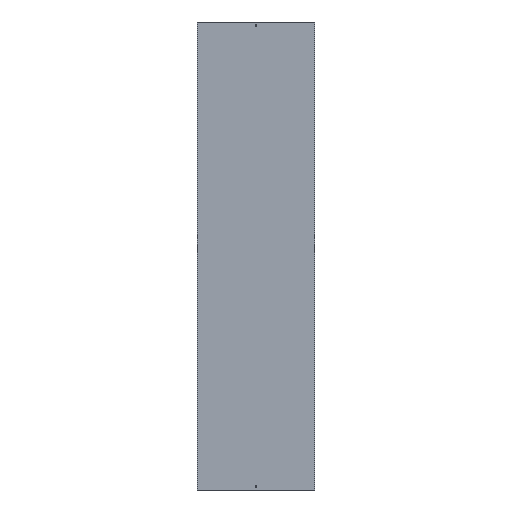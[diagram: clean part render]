
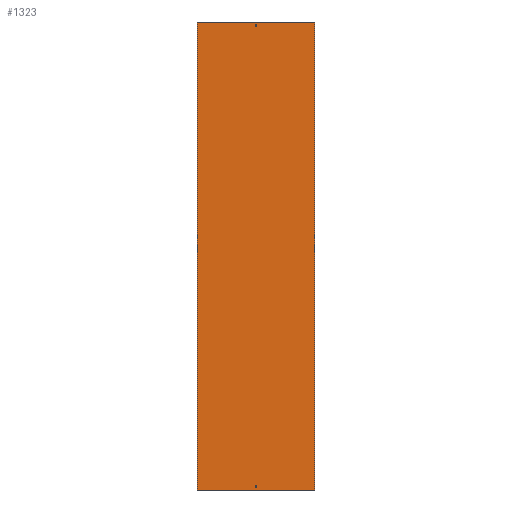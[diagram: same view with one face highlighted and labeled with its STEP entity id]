
A CAD part, front view. The second image highlights one B-rep face of the part: STEP entity #1323.
In plain terms, the highlighted planar face has unit normal (0, -1, 0).
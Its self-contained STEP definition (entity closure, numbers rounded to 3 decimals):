
#8 = DIRECTION ( 'NONE',  ( 0., 0., -1. ) ) ;
#23 = VECTOR ( 'NONE', #2486, 1000. ) ;
#26 = CARTESIAN_POINT ( 'NONE',  ( -3.25, 0., 988. ) ) ;
#33 = ORIENTED_EDGE ( 'NONE', *, *, #2681, .F. ) ;
#49 = DIRECTION ( 'NONE',  ( 0., 0., -1. ) ) ;
#121 = CARTESIAN_POINT ( 'NONE',  ( 3.25, 0., -979. ) ) ;
#133 = CARTESIAN_POINT ( 'NONE',  ( -252., 0., 1000. ) ) ;
#195 = LINE ( 'NONE', #223, #1129 ) ;
#209 = CARTESIAN_POINT ( 'NONE',  ( -252., 0., -1000. ) ) ;
#210 = DIRECTION ( 'NONE',  ( -1., 0., 0. ) ) ;
#222 = FACE_OUTER_BOUND ( 'NONE', #825, .T. ) ;
#223 = CARTESIAN_POINT ( 'NONE',  ( -252., 0., 1000. ) ) ;
#257 = ORIENTED_EDGE ( 'NONE', *, *, #2533, .T. ) ;
#263 = DIRECTION ( 'NONE',  ( -1., 0., 0. ) ) ;
#267 = CARTESIAN_POINT ( 'NONE',  ( 3.25, 0., 988. ) ) ;
#274 = CARTESIAN_POINT ( 'NONE',  ( -3.25, 0., 988. ) ) ;
#290 = EDGE_CURVE ( 'NONE', #2573, #917, #2572, .T. ) ;
#360 = CARTESIAN_POINT ( 'NONE',  ( 3.25, 0., -988. ) ) ;
#373 = VECTOR ( 'NONE', #1499, 1000. ) ;
#413 = CARTESIAN_POINT ( 'NONE',  ( -3.25, 0., -988. ) ) ;
#425 = EDGE_CURVE ( 'NONE', #558, #2573, #2498, .T. ) ;
#429 = ORIENTED_EDGE ( 'NONE', *, *, #2480, .T. ) ;
#507 = VECTOR ( 'NONE', #1758, 1000. ) ;
#513 = LINE ( 'NONE', #267, #507 ) ;
#519 = VERTEX_POINT ( 'NONE', #1735 ) ;
#541 = VECTOR ( 'NONE', #2665, 1000. ) ;
#558 = VERTEX_POINT ( 'NONE', #2580 ) ;
#579 = LINE ( 'NONE', #1429, #2118 ) ;
#620 = CARTESIAN_POINT ( 'NONE',  ( -3.25, 0., -988. ) ) ;
#626 = CARTESIAN_POINT ( 'NONE',  ( -3.25, 0., -988. ) ) ;
#651 = CARTESIAN_POINT ( 'NONE',  ( -252., 0., 1000. ) ) ;
#658 = ORIENTED_EDGE ( 'NONE', *, *, #962, .F. ) ;
#755 = EDGE_LOOP ( 'NONE', ( #1090, #1422, #864, #873 ) ) ;
#794 = EDGE_CURVE ( 'NONE', #917, #1551, #2421, .T. ) ;
#825 = EDGE_LOOP ( 'NONE', ( #1941, #658, #33, #1790 ) ) ;
#864 = ORIENTED_EDGE ( 'NONE', *, *, #425, .F. ) ;
#873 = ORIENTED_EDGE ( 'NONE', *, *, #2099, .F. ) ;
#887 = VERTEX_POINT ( 'NONE', #960 ) ;
#917 = VERTEX_POINT ( 'NONE', #2044 ) ;
#958 = VERTEX_POINT ( 'NONE', #1048 ) ;
#960 = CARTESIAN_POINT ( 'NONE',  ( 252., 0., 1000. ) ) ;
#962 = EDGE_CURVE ( 'NONE', #887, #2367, #2562, .T. ) ;
#997 = EDGE_CURVE ( 'NONE', #2439, #519, #1270, .T. ) ;
#1048 = CARTESIAN_POINT ( 'NONE',  ( -252., 0., -1000. ) ) ;
#1055 = CARTESIAN_POINT ( 'NONE',  ( 252., 0., -1000. ) ) ;
#1080 = AXIS2_PLACEMENT_3D ( 'NONE', #651, #1328, #263 ) ;
#1090 = ORIENTED_EDGE ( 'NONE', *, *, #794, .F. ) ;
#1096 = VERTEX_POINT ( 'NONE', #360 ) ;
#1112 = VERTEX_POINT ( 'NONE', #121 ) ;
#1129 = VECTOR ( 'NONE', #8, 1000. ) ;
#1144 = CARTESIAN_POINT ( 'NONE',  ( 3.25, 0., 979. ) ) ;
#1158 = CARTESIAN_POINT ( 'NONE',  ( -252., 0., 1000. ) ) ;
#1270 = LINE ( 'NONE', #620, #373 ) ;
#1300 = VECTOR ( 'NONE', #1763, 1000. ) ;
#1305 = EDGE_CURVE ( 'NONE', #958, #2367, #2124, .T. ) ;
#1323 = ADVANCED_FACE ( 'NONE', ( #222, #1712, #1962 ), #1922, .F. ) ;
#1328 = DIRECTION ( 'NONE',  ( 0., 1., 0. ) ) ;
#1422 = ORIENTED_EDGE ( 'NONE', *, *, #290, .F. ) ;
#1429 = CARTESIAN_POINT ( 'NONE',  ( -3.25, 0., -979. ) ) ;
#1499 = DIRECTION ( 'NONE',  ( 0., 0., 1. ) ) ;
#1551 = VERTEX_POINT ( 'NONE', #1144 ) ;
#1557 = LINE ( 'NONE', #2414, #1803 ) ;
#1584 = EDGE_CURVE ( 'NONE', #519, #1112, #579, .T. ) ;
#1663 = DIRECTION ( 'NONE',  ( 0., 0., -1. ) ) ;
#1712 = FACE_BOUND ( 'NONE', #755, .T. ) ;
#1735 = CARTESIAN_POINT ( 'NONE',  ( -3.25, 0., -979. ) ) ;
#1758 = DIRECTION ( 'NONE',  ( 0., 0., 1. ) ) ;
#1763 = DIRECTION ( 'NONE',  ( 1., 0., 0. ) ) ;
#1790 = ORIENTED_EDGE ( 'NONE', *, *, #2408, .T. ) ;
#1803 = VECTOR ( 'NONE', #49, 1000. ) ;
#1824 = LINE ( 'NONE', #133, #23 ) ;
#1922 = PLANE ( 'NONE',  #1080 ) ;
#1930 = VECTOR ( 'NONE', #2709, 1000. ) ;
#1941 = ORIENTED_EDGE ( 'NONE', *, *, #1305, .T. ) ;
#1962 = FACE_BOUND ( 'NONE', #2643, .T. ) ;
#2044 = CARTESIAN_POINT ( 'NONE',  ( -3.25, 0., 979. ) ) ;
#2080 = CARTESIAN_POINT ( 'NONE',  ( -3.25, 0., 988. ) ) ;
#2099 = EDGE_CURVE ( 'NONE', #1551, #558, #513, .T. ) ;
#2118 = VECTOR ( 'NONE', #2531, 1000. ) ;
#2124 = LINE ( 'NONE', #209, #2742 ) ;
#2200 = VECTOR ( 'NONE', #1663, 1000. ) ;
#2213 = CARTESIAN_POINT ( 'NONE',  ( -3.25, 0., 979. ) ) ;
#2348 = DIRECTION ( 'NONE',  ( 1., 0., 0. ) ) ;
#2367 = VERTEX_POINT ( 'NONE', #1055 ) ;
#2408 = EDGE_CURVE ( 'NONE', #2663, #958, #195, .T. ) ;
#2414 = CARTESIAN_POINT ( 'NONE',  ( 3.25, 0., -988. ) ) ;
#2421 = LINE ( 'NONE', #2213, #1300 ) ;
#2439 = VERTEX_POINT ( 'NONE', #413 ) ;
#2444 = ORIENTED_EDGE ( 'NONE', *, *, #997, .T. ) ;
#2480 = EDGE_CURVE ( 'NONE', #1096, #2439, #2546, .T. ) ;
#2486 = DIRECTION ( 'NONE',  ( 1., 0., 0. ) ) ;
#2498 = LINE ( 'NONE', #2080, #1930 ) ;
#2531 = DIRECTION ( 'NONE',  ( 1., 0., 0. ) ) ;
#2533 = EDGE_CURVE ( 'NONE', #1112, #1096, #1557, .T. ) ;
#2539 = CARTESIAN_POINT ( 'NONE',  ( 252., 0., 1000. ) ) ;
#2546 = LINE ( 'NONE', #626, #2568 ) ;
#2562 = LINE ( 'NONE', #2539, #2200 ) ;
#2568 = VECTOR ( 'NONE', #210, 1000. ) ;
#2572 = LINE ( 'NONE', #26, #541 ) ;
#2573 = VERTEX_POINT ( 'NONE', #274 ) ;
#2580 = CARTESIAN_POINT ( 'NONE',  ( 3.25, 0., 988. ) ) ;
#2643 = EDGE_LOOP ( 'NONE', ( #2444, #2708, #257, #429 ) ) ;
#2663 = VERTEX_POINT ( 'NONE', #1158 ) ;
#2665 = DIRECTION ( 'NONE',  ( 0., 0., -1. ) ) ;
#2681 = EDGE_CURVE ( 'NONE', #2663, #887, #1824, .T. ) ;
#2708 = ORIENTED_EDGE ( 'NONE', *, *, #1584, .T. ) ;
#2709 = DIRECTION ( 'NONE',  ( -1., 0., 0. ) ) ;
#2742 = VECTOR ( 'NONE', #2348, 1000. ) ;
